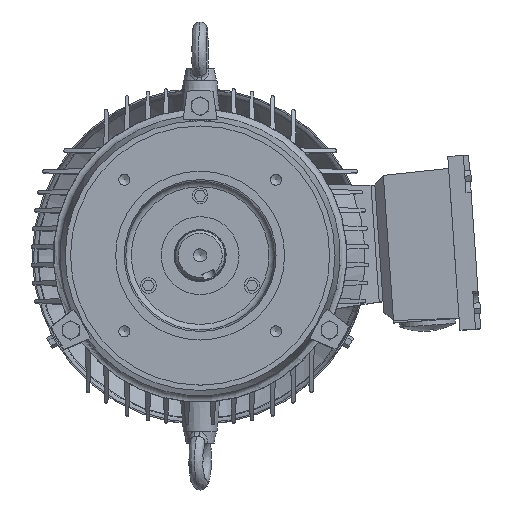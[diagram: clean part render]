
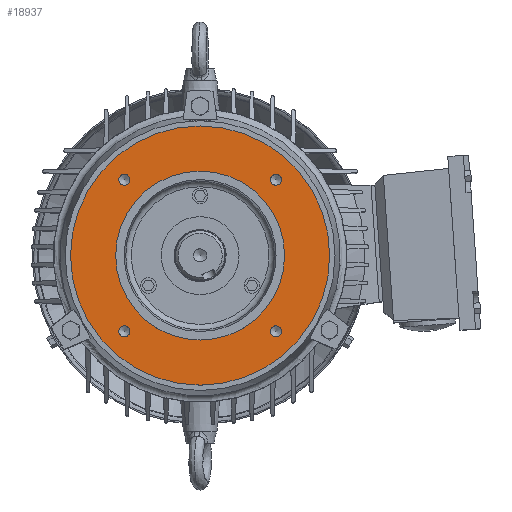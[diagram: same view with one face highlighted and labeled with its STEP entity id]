
A CAD part, top view. The second image highlights one B-rep face of the part: STEP entity #18937.
In plain terms, the highlighted planar face has unit normal (0, 0, 1) as drawn and (-1, 0, 0) by its records, which use the part's own axes.
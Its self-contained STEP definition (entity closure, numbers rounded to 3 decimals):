
#220=FACE_BOUND('',#3240,.T.);
#221=FACE_BOUND('',#3241,.T.);
#222=FACE_BOUND('',#3242,.T.);
#223=FACE_BOUND('',#3243,.T.);
#224=FACE_BOUND('',#3244,.T.);
#911=PLANE('',#20267);
#2067=FACE_OUTER_BOUND('',#3239,.T.);
#3239=EDGE_LOOP('',(#14737));
#3240=EDGE_LOOP('',(#14738));
#3241=EDGE_LOOP('',(#14739));
#3242=EDGE_LOOP('',(#14740));
#3243=EDGE_LOOP('',(#14741));
#3244=EDGE_LOOP('',(#14742));
#8311=CIRCLE('',#20162,4.25);
#8313=CIRCLE('',#20166,4.25);
#8315=CIRCLE('',#20170,4.25);
#8317=CIRCLE('',#20174,4.25);
#8342=CIRCLE('',#20213,65.);
#8343=CIRCLE('',#20215,99.75);
#8983=VERTEX_POINT('',#43631);
#8986=VERTEX_POINT('',#43640);
#8989=VERTEX_POINT('',#43649);
#8992=VERTEX_POINT('',#43658);
#9017=VERTEX_POINT('',#43735);
#9018=VERTEX_POINT('',#43739);
#11032=EDGE_CURVE('',#8983,#8983,#8311,.T.);
#11036=EDGE_CURVE('',#8986,#8986,#8313,.T.);
#11040=EDGE_CURVE('',#8989,#8989,#8315,.T.);
#11044=EDGE_CURVE('',#8992,#8992,#8317,.T.);
#11082=EDGE_CURVE('',#9017,#9017,#8342,.T.);
#11083=EDGE_CURVE('',#9018,#9018,#8343,.T.);
#14737=ORIENTED_EDGE('',*,*,#11083,.T.);
#14738=ORIENTED_EDGE('',*,*,#11032,.F.);
#14739=ORIENTED_EDGE('',*,*,#11036,.F.);
#14740=ORIENTED_EDGE('',*,*,#11040,.F.);
#14741=ORIENTED_EDGE('',*,*,#11044,.F.);
#14742=ORIENTED_EDGE('',*,*,#11082,.F.);
#18937=ADVANCED_FACE('',(#2067,#220,#221,#222,#223,#224),#911,.F.);
#20162=AXIS2_PLACEMENT_3D('',#43633,#22141,#22142);
#20166=AXIS2_PLACEMENT_3D('',#43642,#22151,#22152);
#20170=AXIS2_PLACEMENT_3D('',#43651,#22161,#22162);
#20174=AXIS2_PLACEMENT_3D('',#43660,#22171,#22172);
#20213=AXIS2_PLACEMENT_3D('',#43737,#22262,#22263);
#20215=AXIS2_PLACEMENT_3D('',#43740,#22266,#22267);
#20267=AXIS2_PLACEMENT_3D('',#44157,#22431,#22432);
#22141=DIRECTION('center_axis',(-1.,0.,0.));
#22142=DIRECTION('ref_axis',(0.,0.,1.));
#22151=DIRECTION('center_axis',(-1.,0.,0.));
#22152=DIRECTION('ref_axis',(0.,0.,1.));
#22161=DIRECTION('center_axis',(-1.,0.,0.));
#22162=DIRECTION('ref_axis',(0.,0.,1.));
#22171=DIRECTION('center_axis',(-1.,0.,0.));
#22172=DIRECTION('ref_axis',(0.,0.,1.));
#22262=DIRECTION('center_axis',(-1.,0.,0.));
#22263=DIRECTION('ref_axis',(0.,0.,1.));
#22266=DIRECTION('center_axis',(-1.,0.,0.));
#22267=DIRECTION('ref_axis',(0.,0.,1.));
#22431=DIRECTION('center_axis',(1.,0.,0.));
#22432=DIRECTION('ref_axis',(0.,0.,-1.));
#43631=CARTESIAN_POINT('',(-8.,58.336,54.086));
#43633=CARTESIAN_POINT('Origin',(-8.,58.336,58.336));
#43640=CARTESIAN_POINT('',(-8.,-58.336,54.086));
#43642=CARTESIAN_POINT('Origin',(-8.,-58.336,58.336));
#43649=CARTESIAN_POINT('',(-8.,-58.336,-62.586));
#43651=CARTESIAN_POINT('Origin',(-8.,-58.336,-58.336));
#43658=CARTESIAN_POINT('',(-8.,58.336,-62.586));
#43660=CARTESIAN_POINT('Origin',(-8.,58.336,-58.336));
#43735=CARTESIAN_POINT('',(-8.,0.,-65.));
#43737=CARTESIAN_POINT('Origin',(-8.,0.,0.));
#43739=CARTESIAN_POINT('',(-8.,0.,-99.75));
#43740=CARTESIAN_POINT('Origin',(-8.,0.,0.));
#44157=CARTESIAN_POINT('Origin',(-8.,65.,0.));
